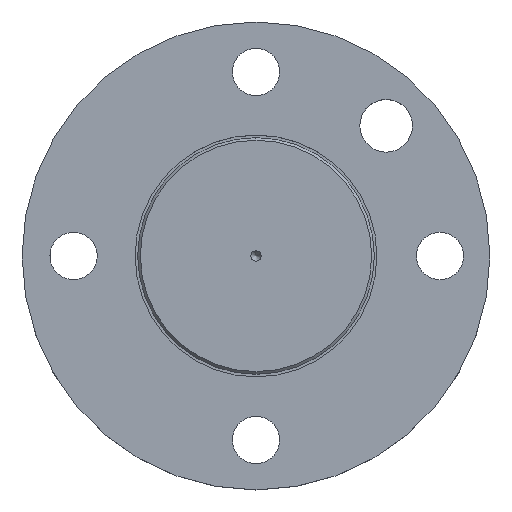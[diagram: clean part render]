
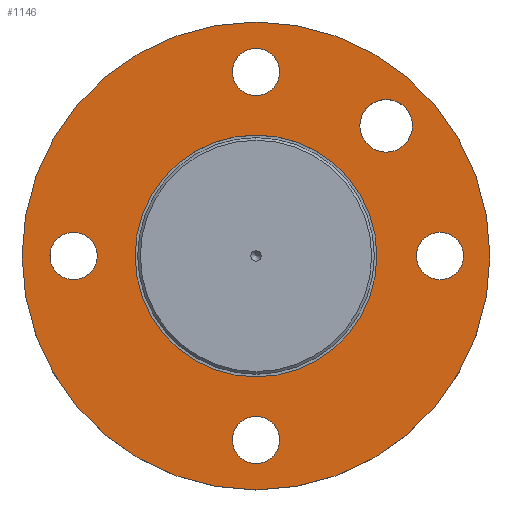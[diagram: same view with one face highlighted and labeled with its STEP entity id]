
A CAD part, top view. The second image highlights one B-rep face of the part: STEP entity #1146.
In plain terms, the highlighted free-form (B-spline) face has degree [1, 1] with [2, 2] control points.
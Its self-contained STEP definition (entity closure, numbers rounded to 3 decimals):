
#119=CARTESIAN_POINT('',(0.,0.,21.));
#120=DIRECTION('',(0.,0.,-1.));
#121=DIRECTION('',(0.,-1.,0.));
#122=AXIS2_PLACEMENT_3D('',#119,#120,#121);
#124=CARTESIAN_POINT('',(0.,0.,21.));
#125=DIRECTION('',(0.,0.,-1.));
#126=DIRECTION('',(0.,1.,0.));
#127=AXIS2_PLACEMENT_3D('',#124,#125,#126);
#129=CARTESIAN_POINT('',(0.,0.,21.));
#130=DIRECTION('',(0.,0.,1.));
#131=DIRECTION('',(1.,0.,0.));
#132=AXIS2_PLACEMENT_3D('',#129,#130,#131);
#134=CARTESIAN_POINT('',(0.,0.,21.));
#135=DIRECTION('',(0.,0.,1.));
#136=DIRECTION('',(-1.,0.,0.));
#137=AXIS2_PLACEMENT_3D('',#134,#135,#136);
#139=CARTESIAN_POINT('',(0.,35.,21.));
#140=DIRECTION('',(0.,0.,1.));
#141=DIRECTION('',(1.,0.,0.));
#142=AXIS2_PLACEMENT_3D('',#139,#140,#141);
#144=CARTESIAN_POINT('',(0.,35.,21.));
#145=DIRECTION('',(0.,0.,1.));
#146=DIRECTION('',(-1.,0.,0.));
#147=AXIS2_PLACEMENT_3D('',#144,#145,#146);
#149=CARTESIAN_POINT('',(-34.7,0.,21.));
#150=DIRECTION('',(0.,0.,1.));
#151=DIRECTION('',(1.,0.,0.));
#152=AXIS2_PLACEMENT_3D('',#149,#150,#151);
#154=CARTESIAN_POINT('',(-34.7,0.,21.));
#155=DIRECTION('',(0.,0.,1.));
#156=DIRECTION('',(-1.,0.,0.));
#157=AXIS2_PLACEMENT_3D('',#154,#155,#156);
#159=CARTESIAN_POINT('',(35.,0.,21.));
#160=DIRECTION('',(0.,0.,1.));
#161=DIRECTION('',(1.,0.,0.));
#162=AXIS2_PLACEMENT_3D('',#159,#160,#161);
#164=CARTESIAN_POINT('',(35.,0.,21.));
#165=DIRECTION('',(0.,0.,1.));
#166=DIRECTION('',(-1.,0.,0.));
#167=AXIS2_PLACEMENT_3D('',#164,#165,#166);
#169=CARTESIAN_POINT('',(0.,-35.,21.));
#170=DIRECTION('',(0.,0.,1.));
#171=DIRECTION('',(1.,0.,0.));
#172=AXIS2_PLACEMENT_3D('',#169,#170,#171);
#174=CARTESIAN_POINT('',(0.,-35.,21.));
#175=DIRECTION('',(0.,0.,1.));
#176=DIRECTION('',(-1.,0.,0.));
#177=AXIS2_PLACEMENT_3D('',#174,#175,#176);
#179=CARTESIAN_POINT('',(24.75,24.75,21.));
#180=DIRECTION('',(0.,0.,1.));
#181=DIRECTION('',(1.,0.,0.));
#182=AXIS2_PLACEMENT_3D('',#179,#180,#181);
#184=CARTESIAN_POINT('',(24.75,24.75,21.));
#185=DIRECTION('',(0.,0.,1.));
#186=DIRECTION('',(-1.,0.,0.));
#187=AXIS2_PLACEMENT_3D('',#184,#185,#186);
#715=CARTESIAN_POINT('',(23.,0.,21.));
#716=CARTESIAN_POINT('',(-23.,0.,21.));
#717=VERTEX_POINT('',#715);
#718=VERTEX_POINT('',#716);
#719=CARTESIAN_POINT('',(0.,-44.5,21.));
#720=CARTESIAN_POINT('',(0.,44.5,21.));
#721=VERTEX_POINT('',#719);
#722=VERTEX_POINT('',#720);
#723=CARTESIAN_POINT('',(4.5,35.,21.));
#724=CARTESIAN_POINT('',(-4.5,35.,21.));
#725=VERTEX_POINT('',#723);
#726=VERTEX_POINT('',#724);
#727=CARTESIAN_POINT('',(-30.2,0.,21.));
#728=CARTESIAN_POINT('',(-39.2,0.,21.));
#729=VERTEX_POINT('',#727);
#730=VERTEX_POINT('',#728);
#731=CARTESIAN_POINT('',(39.5,0.,21.));
#732=CARTESIAN_POINT('',(30.5,0.,21.));
#733=VERTEX_POINT('',#731);
#734=VERTEX_POINT('',#732);
#735=CARTESIAN_POINT('',(4.5,-35.,21.));
#736=CARTESIAN_POINT('',(-4.5,-35.,21.));
#737=VERTEX_POINT('',#735);
#738=VERTEX_POINT('',#736);
#739=CARTESIAN_POINT('',(29.75,24.75,21.));
#740=CARTESIAN_POINT('',(19.75,24.75,21.));
#741=VERTEX_POINT('',#739);
#742=VERTEX_POINT('',#740);
#1100=CARTESIAN_POINT('',(46.312,-46.28,21.));
#1101=CARTESIAN_POINT('',(-46.312,-46.28,21.));
#1102=CARTESIAN_POINT('',(46.312,46.28,21.));
#1103=CARTESIAN_POINT('',(-46.312,46.28,21.));
#1104=B_SPLINE_SURFACE_WITH_KNOTS('',1,1,((#1100,#1101),(#1102,#1103)),
.UNSPECIFIED.,.F.,.F.,.F.,(2,2),(2,2),(-46.28,46.28),(-46.312,
46.312),.UNSPECIFIED.);
#1106=ORIENTED_EDGE('',*,*,#1105,.T.);
#1108=ORIENTED_EDGE('',*,*,#1107,.T.);
#1109=EDGE_LOOP('',(#1106,#1108));
#1110=FACE_OUTER_BOUND('',#1109,.F.);
#1111=ORIENTED_EDGE('',*,*,#1090,.T.);
#1113=ORIENTED_EDGE('',*,*,#1112,.T.);
#1114=EDGE_LOOP('',(#1111,#1113));
#1115=FACE_BOUND('',#1114,.F.);
#1117=ORIENTED_EDGE('',*,*,#1116,.T.);
#1119=ORIENTED_EDGE('',*,*,#1118,.T.);
#1120=EDGE_LOOP('',(#1117,#1119));
#1121=FACE_BOUND('',#1120,.F.);
#1123=ORIENTED_EDGE('',*,*,#1122,.T.);
#1125=ORIENTED_EDGE('',*,*,#1124,.T.);
#1126=EDGE_LOOP('',(#1123,#1125));
#1127=FACE_BOUND('',#1126,.F.);
#1129=ORIENTED_EDGE('',*,*,#1128,.T.);
#1131=ORIENTED_EDGE('',*,*,#1130,.T.);
#1132=EDGE_LOOP('',(#1129,#1131));
#1133=FACE_BOUND('',#1132,.F.);
#1135=ORIENTED_EDGE('',*,*,#1134,.T.);
#1137=ORIENTED_EDGE('',*,*,#1136,.T.);
#1138=EDGE_LOOP('',(#1135,#1137));
#1139=FACE_BOUND('',#1138,.F.);
#1141=ORIENTED_EDGE('',*,*,#1140,.T.);
#1143=ORIENTED_EDGE('',*,*,#1142,.T.);
#1144=EDGE_LOOP('',(#1141,#1143));
#1145=FACE_BOUND('',#1144,.F.);
#1146=ADVANCED_FACE('',(#1110,#1115,#1121,#1127,#1133,#1139,#1145),#1104,.T.);
#123=CIRCLE('',#122,44.5);
#128=CIRCLE('',#127,44.5);
#133=CIRCLE('',#132,23.);
#138=CIRCLE('',#137,23.);
#143=CIRCLE('',#142,4.5);
#148=CIRCLE('',#147,4.5);
#153=CIRCLE('',#152,4.5);
#158=CIRCLE('',#157,4.5);
#163=CIRCLE('',#162,4.5);
#168=CIRCLE('',#167,4.5);
#173=CIRCLE('',#172,4.5);
#178=CIRCLE('',#177,4.5);
#183=CIRCLE('',#182,5.);
#188=CIRCLE('',#187,5.);
#1090=EDGE_CURVE('',#717,#718,#133,.T.);
#1105=EDGE_CURVE('',#721,#722,#123,.T.);
#1107=EDGE_CURVE('',#722,#721,#128,.T.);
#1112=EDGE_CURVE('',#718,#717,#138,.T.);
#1116=EDGE_CURVE('',#725,#726,#143,.T.);
#1118=EDGE_CURVE('',#726,#725,#148,.T.);
#1122=EDGE_CURVE('',#729,#730,#153,.T.);
#1124=EDGE_CURVE('',#730,#729,#158,.T.);
#1128=EDGE_CURVE('',#733,#734,#163,.T.);
#1130=EDGE_CURVE('',#734,#733,#168,.T.);
#1134=EDGE_CURVE('',#737,#738,#173,.T.);
#1136=EDGE_CURVE('',#738,#737,#178,.T.);
#1140=EDGE_CURVE('',#741,#742,#183,.T.);
#1142=EDGE_CURVE('',#742,#741,#188,.T.);
